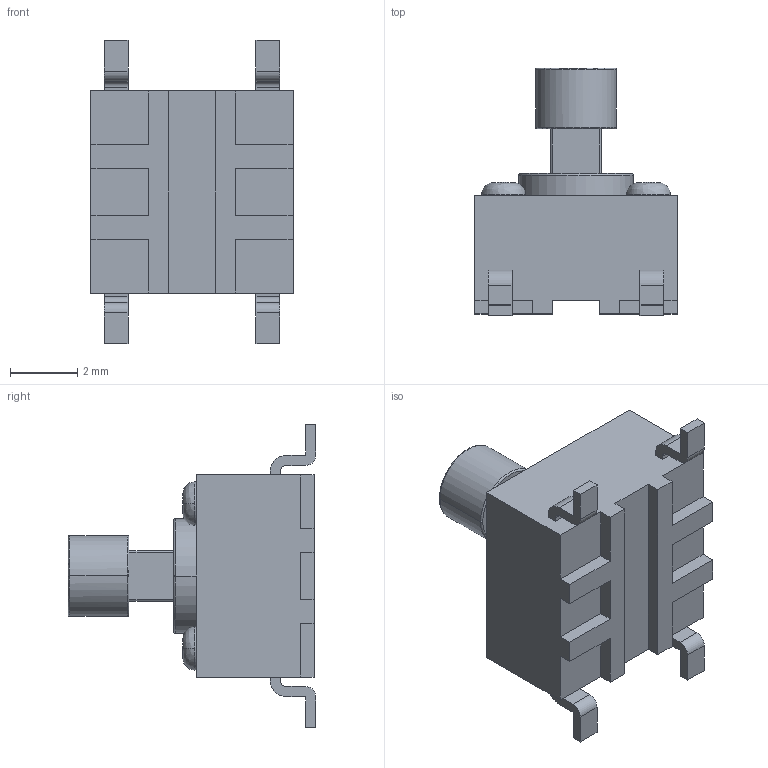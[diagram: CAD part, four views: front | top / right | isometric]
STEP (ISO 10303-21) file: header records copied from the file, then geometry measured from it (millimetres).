
FILE_DESCRIPTION((''),'2;1');
FILE_NAME('ASM0005_ASM_ASM','2024-01-06T',('WYH'),(''),'PRO/ENGINEER BY PARAMETRIC TECHNOLOGY CORPORATION, 2013040','PRO/ENGINEER BY PARAMETRIC TECHNOLOGY CORPORATION, 2013040','');
FILE_SCHEMA(('CONFIG_CONTROL_DESIGN'));
Length unit declared in the file: millimetre
Products named in the file (1): ASM0005_ASM_ASM
Bounding box: 6 x 7.35 x 9 mm (x, y, z)
Volume: 137.3 mm3; surface area: 218 mm2
Topology: 1 solids, 1 shells, 182 faces, 490 edges, 326 vertices
Faces by surface type: plane 125, cylinder 43, bspline 8, torus 6
Entity records: 5931 total; most frequent: CARTESIAN_POINT 1225, ORIENTED_EDGE 980, DIRECTION 960, EDGE_CURVE 490, VECTOR 364, LINE 364, VERTEX_POINT 326, AXIS2_PLACEMENT_3D 298
